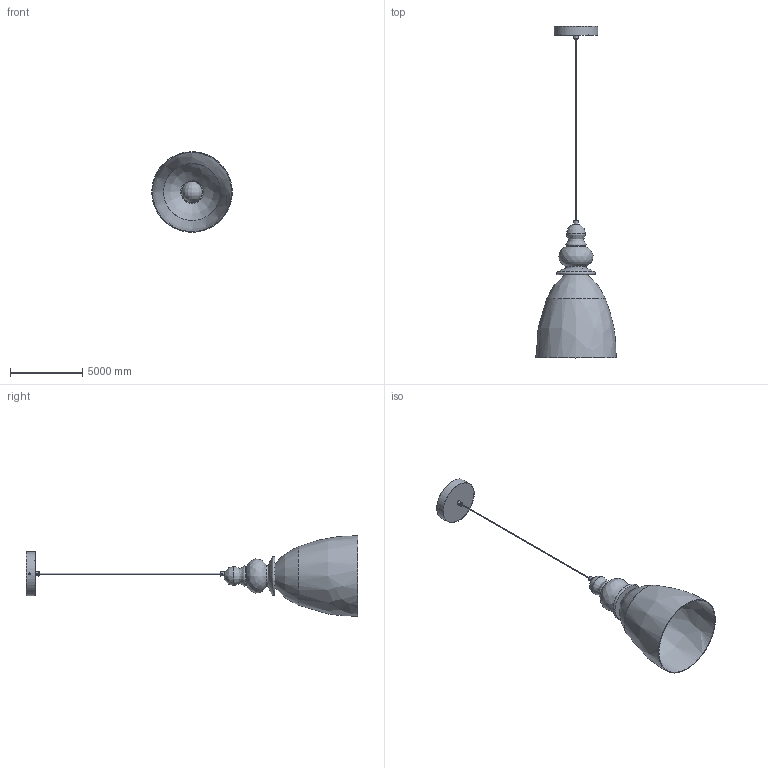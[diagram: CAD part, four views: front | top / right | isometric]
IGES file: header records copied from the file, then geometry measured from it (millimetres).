
Global section: file name: Delmare Glass Pendant Lamp; native system: AutoCAD 2022 - 简体中文 (Simplified Chinese),62HAuto; preprocessor: desk Translation Framework DWG producer (atf_dwg_producer); organization: unknown; date: 20260104.155916; units: inch
Bounding box: 5583.73 x 23025.16 x 5587.98 mm (x, y, z)
Volume: 16026008395.4 mm3; surface area: 260466999 mm2
Topology: 10 solids, 10 shells, 68 faces, 160 edges, 116 vertices
Faces by surface type: bspline 68
